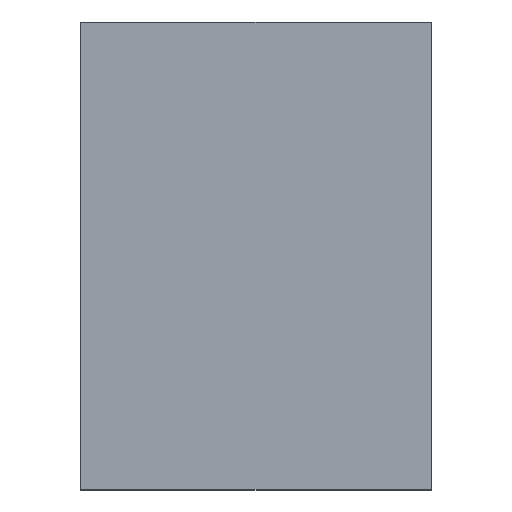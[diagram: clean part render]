
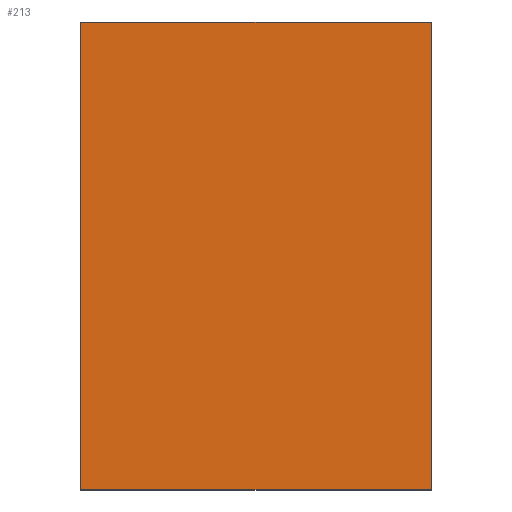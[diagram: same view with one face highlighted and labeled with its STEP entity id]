
A CAD part, top view. The second image highlights one B-rep face of the part: STEP entity #213.
In plain terms, the highlighted planar face has unit normal (0, 0, 1).
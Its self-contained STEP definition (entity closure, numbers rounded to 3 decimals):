
#24 = VERTEX_POINT('',#25);
#25 = CARTESIAN_POINT('',(82.8,-8.,-2.8));
#32 = PLANE('',#33);
#33 = AXIS2_PLACEMENT_3D('',#34,#35,#36);
#34 = CARTESIAN_POINT('',(82.8,-8.,-10.7));
#35 = DIRECTION('',(1.,0.,-0.));
#36 = DIRECTION('',(0.,0.,1.));
#44 = PLANE('',#45);
#45 = AXIS2_PLACEMENT_3D('',#46,#47,#48);
#46 = CARTESIAN_POINT('',(82.8,-8.,-10.7));
#47 = DIRECTION('',(-0.,1.,0.));
#48 = DIRECTION('',(0.,0.,1.));
#85 = VERTEX_POINT('',#86);
#86 = CARTESIAN_POINT('',(82.8,8.,-2.8));
#100 = PLANE('',#101);
#101 = AXIS2_PLACEMENT_3D('',#102,#103,#104);
#102 = CARTESIAN_POINT('',(82.8,8.,-10.7));
#103 = DIRECTION('',(-0.,1.,0.));
#104 = DIRECTION('',(0.,0.,1.));
#112 = EDGE_CURVE('',#24,#85,#113,.T.);
#113 = SURFACE_CURVE('',#114,(#118,#125),.PCURVE_S1.);
#114 = LINE('',#115,#116);
#115 = CARTESIAN_POINT('',(82.8,-8.,-2.8));
#116 = VECTOR('',#117,1.);
#117 = DIRECTION('',(-0.,1.,0.));
#118 = PCURVE('',#32,#119);
#119 = DEFINITIONAL_REPRESENTATION('',(#120),#124);
#120 = LINE('',#121,#122);
#121 = CARTESIAN_POINT('',(7.9,0.));
#122 = VECTOR('',#123,1.);
#123 = DIRECTION('',(0.,-1.));
#124 = ( GEOMETRIC_REPRESENTATION_CONTEXT(2) 
PARAMETRIC_REPRESENTATION_CONTEXT() REPRESENTATION_CONTEXT('2D SPACE',''
  ) );
#125 = PCURVE('',#126,#131);
#126 = PLANE('',#127);
#127 = AXIS2_PLACEMENT_3D('',#128,#129,#130);
#128 = CARTESIAN_POINT('',(82.8,-8.,-2.8));
#129 = DIRECTION('',(0.,0.,1.));
#130 = DIRECTION('',(1.,0.,-0.));
#131 = DEFINITIONAL_REPRESENTATION('',(#132),#136);
#132 = LINE('',#133,#134);
#133 = CARTESIAN_POINT('',(0.,0.));
#134 = VECTOR('',#135,1.);
#135 = DIRECTION('',(0.,1.));
#136 = ( GEOMETRIC_REPRESENTATION_CONTEXT(2) 
PARAMETRIC_REPRESENTATION_CONTEXT() REPRESENTATION_CONTEXT('2D SPACE',''
  ) );
#165 = EDGE_CURVE('',#24,#166,#168,.T.);
#166 = VERTEX_POINT('',#167);
#167 = CARTESIAN_POINT('',(94.8,-8.,-2.8));
#168 = SURFACE_CURVE('',#169,(#173,#180),.PCURVE_S1.);
#169 = LINE('',#170,#171);
#170 = CARTESIAN_POINT('',(82.8,-8.,-2.8));
#171 = VECTOR('',#172,1.);
#172 = DIRECTION('',(1.,0.,-0.));
#173 = PCURVE('',#44,#174);
#174 = DEFINITIONAL_REPRESENTATION('',(#175),#179);
#175 = LINE('',#176,#177);
#176 = CARTESIAN_POINT('',(7.9,0.));
#177 = VECTOR('',#178,1.);
#178 = DIRECTION('',(0.,1.));
#179 = ( GEOMETRIC_REPRESENTATION_CONTEXT(2) 
PARAMETRIC_REPRESENTATION_CONTEXT() REPRESENTATION_CONTEXT('2D SPACE',''
  ) );
#180 = PCURVE('',#126,#181);
#181 = DEFINITIONAL_REPRESENTATION('',(#182),#186);
#182 = LINE('',#183,#184);
#183 = CARTESIAN_POINT('',(0.,0.));
#184 = VECTOR('',#185,1.);
#185 = DIRECTION('',(1.,0.));
#186 = ( GEOMETRIC_REPRESENTATION_CONTEXT(2) 
PARAMETRIC_REPRESENTATION_CONTEXT() REPRESENTATION_CONTEXT('2D SPACE',''
  ) );
#202 = PLANE('',#203);
#203 = AXIS2_PLACEMENT_3D('',#204,#205,#206);
#204 = CARTESIAN_POINT('',(94.8,-8.,-10.7));
#205 = DIRECTION('',(1.,0.,-0.));
#206 = DIRECTION('',(0.,0.,1.));
#213 = ADVANCED_FACE('',(#214),#126,.T.);
#214 = FACE_BOUND('',#215,.T.);
#215 = EDGE_LOOP('',(#216,#217,#218,#241));
#216 = ORIENTED_EDGE('',*,*,#112,.F.);
#217 = ORIENTED_EDGE('',*,*,#165,.T.);
#218 = ORIENTED_EDGE('',*,*,#219,.T.);
#219 = EDGE_CURVE('',#166,#220,#222,.T.);
#220 = VERTEX_POINT('',#221);
#221 = CARTESIAN_POINT('',(94.8,8.,-2.8));
#222 = SURFACE_CURVE('',#223,(#227,#234),.PCURVE_S1.);
#223 = LINE('',#224,#225);
#224 = CARTESIAN_POINT('',(94.8,-8.,-2.8));
#225 = VECTOR('',#226,1.);
#226 = DIRECTION('',(-0.,1.,0.));
#227 = PCURVE('',#126,#228);
#228 = DEFINITIONAL_REPRESENTATION('',(#229),#233);
#229 = LINE('',#230,#231);
#230 = CARTESIAN_POINT('',(12.,0.));
#231 = VECTOR('',#232,1.);
#232 = DIRECTION('',(0.,1.));
#233 = ( GEOMETRIC_REPRESENTATION_CONTEXT(2) 
PARAMETRIC_REPRESENTATION_CONTEXT() REPRESENTATION_CONTEXT('2D SPACE',''
  ) );
#234 = PCURVE('',#202,#235);
#235 = DEFINITIONAL_REPRESENTATION('',(#236),#240);
#236 = LINE('',#237,#238);
#237 = CARTESIAN_POINT('',(7.9,0.));
#238 = VECTOR('',#239,1.);
#239 = DIRECTION('',(0.,-1.));
#240 = ( GEOMETRIC_REPRESENTATION_CONTEXT(2) 
PARAMETRIC_REPRESENTATION_CONTEXT() REPRESENTATION_CONTEXT('2D SPACE',''
  ) );
#241 = ORIENTED_EDGE('',*,*,#242,.F.);
#242 = EDGE_CURVE('',#85,#220,#243,.T.);
#243 = SURFACE_CURVE('',#244,(#248,#255),.PCURVE_S1.);
#244 = LINE('',#245,#246);
#245 = CARTESIAN_POINT('',(82.8,8.,-2.8));
#246 = VECTOR('',#247,1.);
#247 = DIRECTION('',(1.,0.,-0.));
#248 = PCURVE('',#126,#249);
#249 = DEFINITIONAL_REPRESENTATION('',(#250),#254);
#250 = LINE('',#251,#252);
#251 = CARTESIAN_POINT('',(0.,16.));
#252 = VECTOR('',#253,1.);
#253 = DIRECTION('',(1.,0.));
#254 = ( GEOMETRIC_REPRESENTATION_CONTEXT(2) 
PARAMETRIC_REPRESENTATION_CONTEXT() REPRESENTATION_CONTEXT('2D SPACE',''
  ) );
#255 = PCURVE('',#100,#256);
#256 = DEFINITIONAL_REPRESENTATION('',(#257),#261);
#257 = LINE('',#258,#259);
#258 = CARTESIAN_POINT('',(7.9,0.));
#259 = VECTOR('',#260,1.);
#260 = DIRECTION('',(0.,1.));
#261 = ( GEOMETRIC_REPRESENTATION_CONTEXT(2) 
PARAMETRIC_REPRESENTATION_CONTEXT() REPRESENTATION_CONTEXT('2D SPACE',''
  ) );
